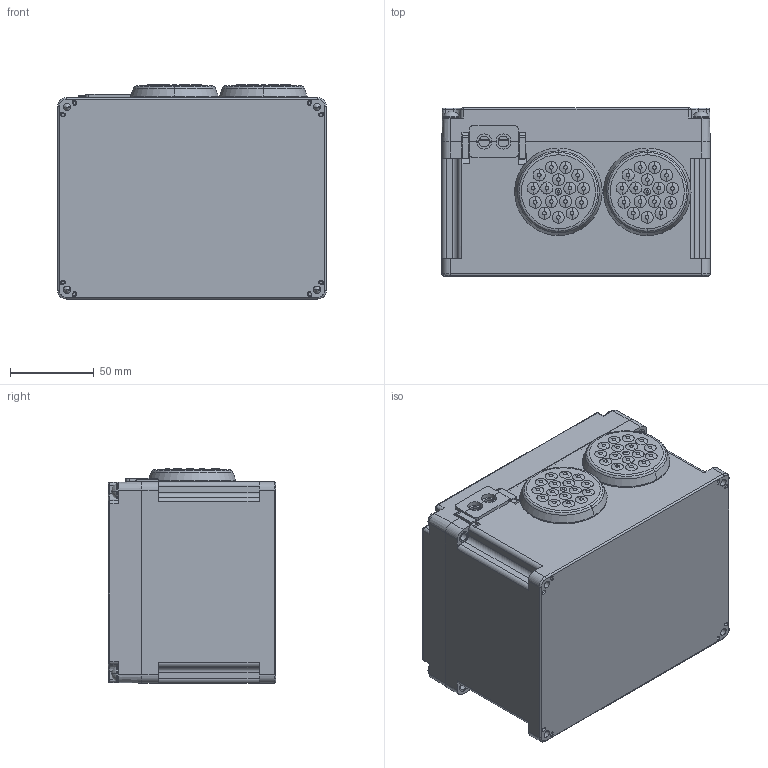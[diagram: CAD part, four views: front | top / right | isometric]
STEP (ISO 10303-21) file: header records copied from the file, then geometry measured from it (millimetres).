
FILE_DESCRIPTION((''),'2;1');
FILE_NAME('ASM0002_ASM','2026-05-14T17:47:59',('Administrator'),(''),'CREO PARAMETRIC BY PTC INC, 2022073','CREO PARAMETRIC BY PTC INC, 2022073','');
FILE_SCHEMA(('CONFIG_CONTROL_DESIGN'));
Length unit declared in the file: millimetre
Products named in the file (7): BOX; MX_C_2; M3_6; MF; 40-17; MFQ_1; ASM0002_ASM
Assembly tree (11 placements, depth 2):
  ASM0002_ASM
    BOX
    MX_C_2
    M3_6  x4
    MF  x2
    40-17  x2
    MFQ_1
Bounding box: 160 x 100 x 127.7 mm (x, y, z)
Volume: 300965.8 mm3; surface area: 239556.4 mm2
Topology: 18 solids, 18 shells, 1675 faces, 4276 edges, 2744 vertices
Faces by surface type: plane 826, cone 356, cylinder 317, torus 94, bspline 66, sphere 16
Entity records: 47100 total; most frequent: CARTESIAN_POINT 11525, ORIENTED_EDGE 7516, DIRECTION 7181, EDGE_CURVE 3758, VERTEX_POINT 2432, VECTOR 2407, LINE 2407, AXIS2_PLACEMENT_3D 2387
